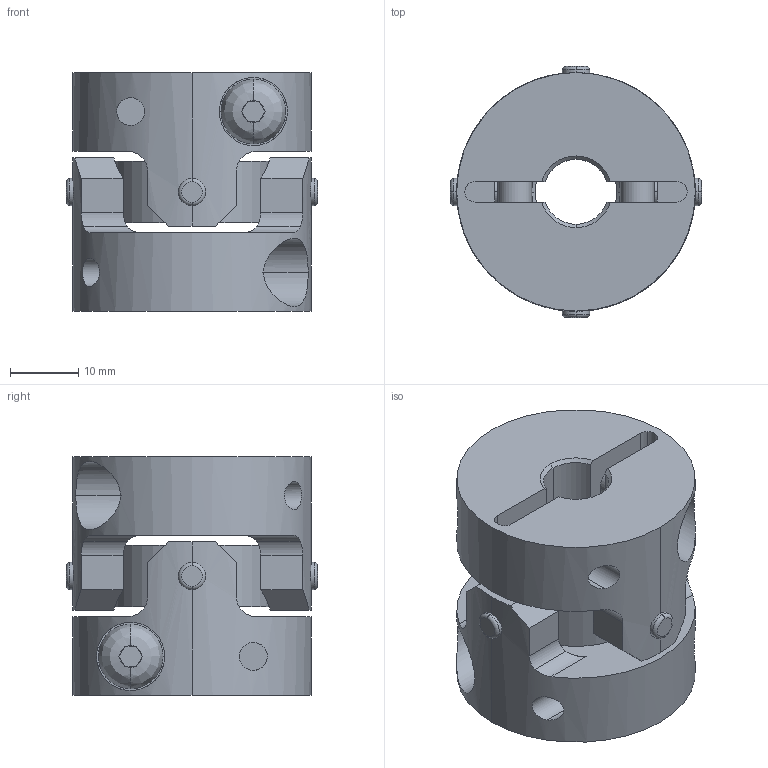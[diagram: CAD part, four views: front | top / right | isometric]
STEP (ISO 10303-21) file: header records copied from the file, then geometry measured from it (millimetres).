
FILE_DESCRIPTION((''),'2;1');
FILE_NAME('UA-35C-9.525×12.stp','2013-11-12T15:49:22',(''),(''),'AutoCAD STEP 2000i','AutoCAD 2000i',', , ');
FILE_SCHEMA(('CONFIG_CONTROL_DESIGN'));
Length unit declared in the file: millimetre
Products named in the file (6): UA-35C-8×8; 忣兜1; UA-3502-D08-1; BTN-M5; UA-3502-D08; UA35-SEN
Assembly tree (6 placements, depth 3):
  UA-35C-8×8
    忣兜1
    UA-3502-D08-1
      BTN-M5
    UA-3502-D08
      BTN-M5
    UA35-SEN
Bounding box: 36.83 x 36.83 x 35 mm (x, y, z)
Volume: 22579.4 mm3; surface area: 11972.9 mm2
Topology: 1 solids, 1 shells, 250 faces, 646 edges, 408 vertices
Faces by surface type: plane 122, cylinder 96, cone 16, bspline 8, torus 8
Entity records: 9647 total; most frequent: CARTESIAN_POINT 3391, ORIENTED_EDGE 1292, DIRECTION 1288, EDGE_CURVE 646, AXIS2_PLACEMENT_3D 497, VERTEX_POINT 408, VECTOR 294, LINE 294
